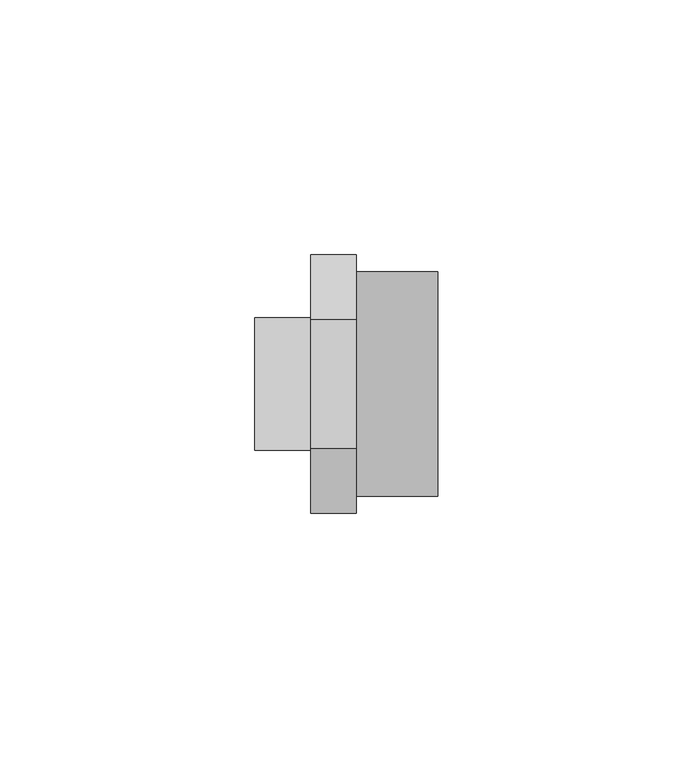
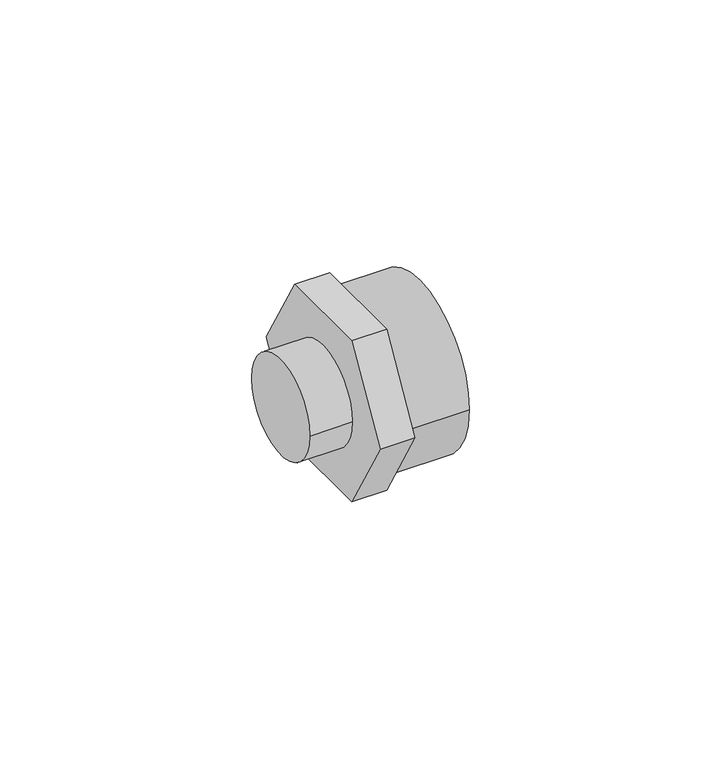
"""IFC4 building model written with IfcOpenShell, lengths in millimetres: pipe fitting geometry, 01101006 : Uniões de redução F/M."""

from ifc_helpers import new_model, si_unit, point, frame, origin, origin_2d, place, context, project, spatial, polyline, circle_curve, trimmed, segment, composite_curve, outline, extrude, source, transform, mapped, element, save


def pipe_fitting_3fa74a90(model_context):
    return source(origin(), model_context, "Body", "SweptSolid", [
        extrude(outline(composite_curve([segment(trimmed(circle_curve(origin_2d(), 13.0), [point((13.0, 0.0))], [point((-13.0, 0.0))], False, "CARTESIAN"), True, "CONTINUOUS"), segment(trimmed(circle_curve(origin_2d(), 13.0), [point((-13.0, 0.0))], [point((13.0, 0.0))], False, "CARTESIAN"), True, "CONTINUOUS")], self_intersect=False)), frame((0.0, 0.0, 0.0), z_axis=(1.0, 0.0, 0.0), x_axis=(0.0, 1.0, 0.0)), (0.0, 0.0, 1.0), 11.0),
        extrude(outline(polyline([(-12.7017059, 22.0), (12.7017059, 22.0), (25.4034118, 0.0), (12.7017059, -22.0), (-12.7017059, -22.0), (-25.4034118, 0.0), (-12.7017059, 22.0)])), frame((11.0, 0.0, 0.0), z_axis=(1.0, 0.0, 0.0), x_axis=(0.0, 1.0, 0.0)), (0.0, 0.0, 1.0), 9.0),
        extrude(outline(composite_curve([segment(trimmed(circle_curve(origin_2d(), 22.0), [point((-22.0, 0.0))], [point((22.0, 0.0))], False, "CARTESIAN"), True, "CONTINUOUS"), segment(trimmed(circle_curve(origin_2d(), 22.0), [point((22.0, 0.0))], [point((-22.0, 0.0))], False, "CARTESIAN"), True, "CONTINUOUS")], self_intersect=False)), frame((20.0, 0.0, 0.0), z_axis=(1.0, 0.0, 0.0), x_axis=(0.0, 1.0, 0.0)), (0.0, 0.0, 1.0), 16.0),
    ])


if __name__ == "__main__":
    model = new_model("IFC4")
    model_context = context("Model", 3, world=origin())
    ifc_project = project(units=[si_unit("LENGTHUNIT", "METRE", prefix="MILLI")], contexts=[model_context])
    site = spatial("IfcSite", under=ifc_project)
    building = spatial("IfcBuilding", under=site)
    placement = place(None, origin())
    pipe_fitting_shape = pipe_fitting_3fa74a90(model_context)
    element("IfcPipeFitting", 1, ObjectType="01101006 : Uniões de redução F/M", at=placement, inside=building, context=model_context, shape_type="MappedRepresentation", body=[
        mapped(pipe_fitting_shape, transform((0.0, 0.0, 0.0), x_axis=(1.0, 0.0, 0.0), y_axis=(0.0, 1.0, 0.0), z_axis=(0.0, 0.0, 1.0))),
    ])
    save(model, "model.ifc")
